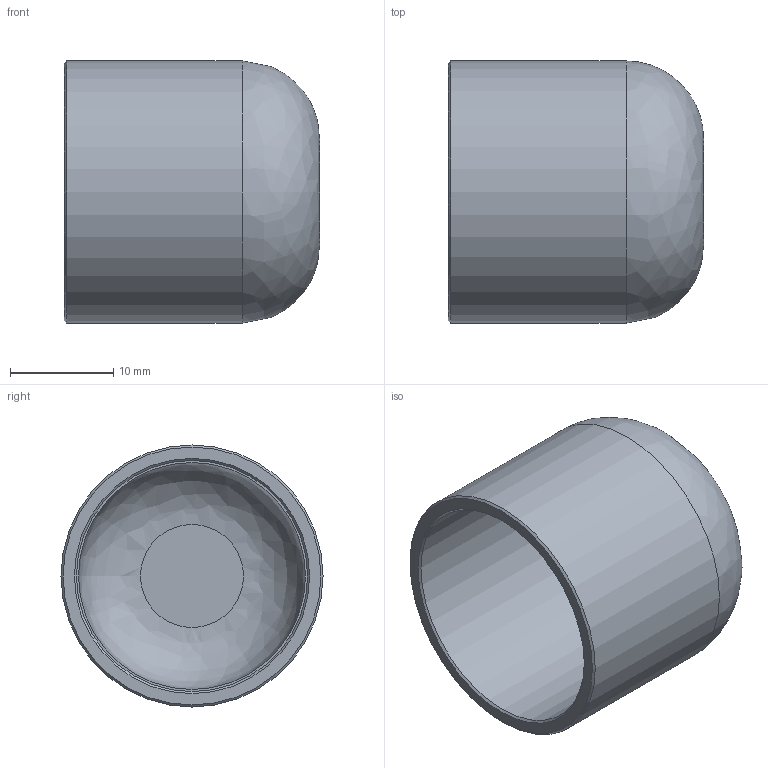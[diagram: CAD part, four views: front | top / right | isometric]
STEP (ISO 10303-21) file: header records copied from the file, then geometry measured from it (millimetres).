
FILE_DESCRIPTION((''),'2;1');
FILE_NAME('G:\SANHA-Ternat\Technik\Management\Bouwmaten + markeringen\z-maattekeningen 3D\29000s\2930178_3d.stp','2017-08-04T13:19:11',('vdvijverd'),(''),'Autodesk Inventor 2009','Autodesk Inventor 2009','');
FILE_SCHEMA(('AUTOMOTIVE_DESIGN { 1 0 10303 214 1 1 1 1 }'));
Length unit declared in the file: millimetre
Products named in the file (1): 2930178_3d
Bounding box: 24.7 x 25.38 x 25.38 mm (x, y, z)
Volume: 3095.9 mm3; surface area: 4109.2 mm2
Topology: 1 solids, 1 shells, 11 faces, 17 edges, 10 vertices
Faces by surface type: plane 4, cylinder 3, cone 2, bspline 2
Full cylindrical faces by diameter (mm): 21.975 x1, 22.375 x1, 25.375 x1
Entity records: 320 total; most frequent: CARTESIAN_POINT 120, DIRECTION 40, AXIS2_PLACEMENT_3D 20, ORIENTED_EDGE 20, EDGE_LOOP 20, FACE_OUTER_BOUND 11, ADVANCED_FACE 11, VERTEX_POINT 10
